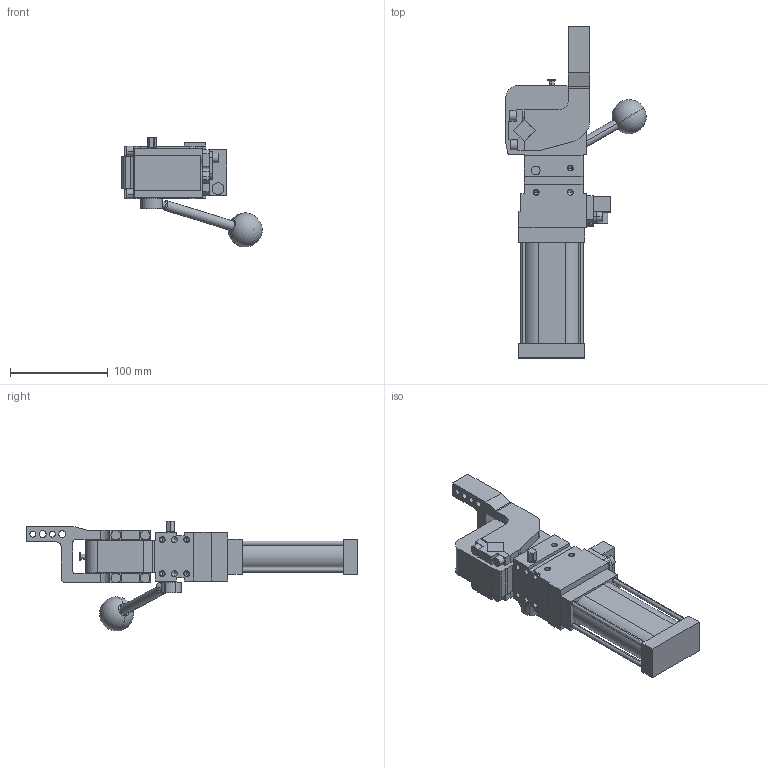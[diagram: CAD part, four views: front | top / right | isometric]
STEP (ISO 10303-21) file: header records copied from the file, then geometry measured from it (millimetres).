
FILE_DESCRIPTION (( 'STEP AP214' ), '1' );
FILE_NAME ('cplm40lbh3ssi1g_16.STEP', '2021-05-25T13:51:51', ( '' ), ( '' ), 'SwSTEP 2.0', 'SolidWorks 2021', '' );
FILE_SCHEMA (( 'AUTOMOTIVE_DESIGN' ));
Length unit declared in the file: millimetre
Products named in the file (6): piastra_blocchetto_cpl40; blocchetto_VEP_0_cpl40; cplm40lbh3ssi1g_16; leva_v3s_cpl40; meccanica_cplm40; comando_manuale_cplm_40
Assembly tree (5 placements, depth 2):
  cplm40lbh3ssi1g_16
    meccanica_cplm40
    blocchetto_VEP_0_cpl40
    piastra_blocchetto_cpl40
    leva_v3s_cpl40
    comando_manuale_cplm_40
Bounding box: 143.62 x 340 x 112.66 mm (x, y, z)
Volume: 826523.5 mm3; surface area: 131070.1 mm2
Topology: 6 solids, 6 shells, 471 faces, 1213 edges, 765 vertices
Faces by surface type: plane 261, cylinder 162, cone 46, sphere 2
Entity records: 15653 total; most frequent: CARTESIAN_POINT 2525, DIRECTION 2500, ORIENTED_EDGE 2332, EDGE_CURVE 1166, AXIS2_PLACEMENT_3D 859, VECTOR 782, LINE 782, VERTEX_POINT 762
